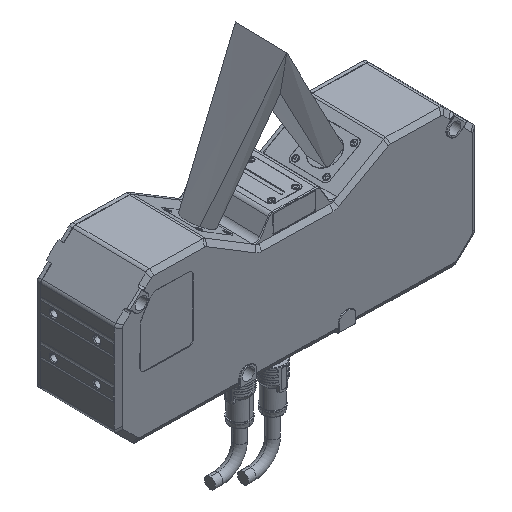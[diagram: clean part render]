
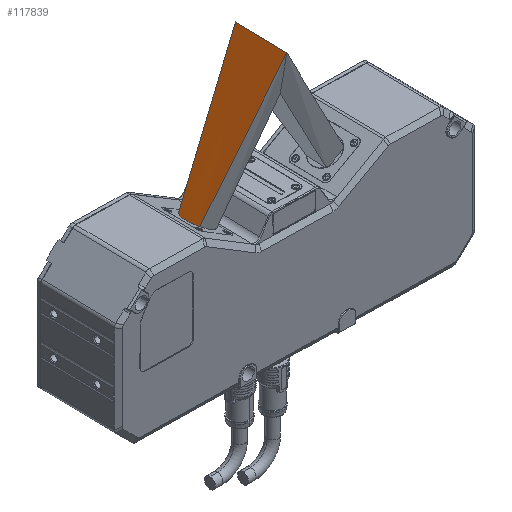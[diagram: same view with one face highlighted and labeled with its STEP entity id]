
A CAD part, isometric view. The second image highlights one B-rep face of the part: STEP entity #117839.
In plain terms, the highlighted free-form (B-spline) face has degree [3, 3] with [6, 4] control points.
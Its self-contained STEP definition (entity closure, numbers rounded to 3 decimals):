
#117694=DIRECTION('',(0.019,1.,0.));
#117695=VECTOR('',#117694,35.5);
#117696=CARTESIAN_POINT('',(120.977,-21.039,-1.51));
#117697=LINE('',#117696,#117695);
#117698=DIRECTION('',(-0.498,-0.1,
-0.861));
#117699=VECTOR('',#117698,97.936);
#117700=CARTESIAN_POINT('',(121.644,14.455,-1.51));
#117701=LINE('',#117700,#117699);
#117702=DIRECTION('',(0.,-1.,-0.011));
#117703=VECTOR('',#117702,14.397);
#117704=CARTESIAN_POINT('',(72.828,4.671,
-85.847));
#117705=LINE('',#117704,#117703);
#117710=DIRECTION('',(-0.492,0.116,-0.863));
#117711=VECTOR('',#117710,97.911);
#117712=CARTESIAN_POINT('',(120.977,-21.039,-1.51));
#117713=LINE('',#117712,#117711);
#117726=CARTESIAN_POINT('',(120.977,-21.039,-1.51));
#117727=CARTESIAN_POINT('',(72.828,-9.725,
-86.009));
#117728=VERTEX_POINT('',#117726);
#117729=VERTEX_POINT('',#117727);
#117730=CARTESIAN_POINT('',(121.644,14.455,-1.51));
#117731=CARTESIAN_POINT('',(72.828,4.671,
-85.847));
#117732=VERTEX_POINT('',#117730);
#117733=VERTEX_POINT('',#117731);
#117805=CARTESIAN_POINT('',(121.927,-21.983,
0.18));
#117806=CARTESIAN_POINT('',(105.24,-17.915,
-29.114));
#117807=CARTESIAN_POINT('',(88.553,-13.847,
-58.408));
#117808=CARTESIAN_POINT('',(71.865,-9.778,
-87.703));
#117809=CARTESIAN_POINT('',(121.931,-21.744,
0.18));
#117810=CARTESIAN_POINT('',(105.243,-17.724,
-29.114));
#117811=CARTESIAN_POINT('',(88.554,-13.705,
-58.408));
#117812=CARTESIAN_POINT('',(71.865,-9.685,
-87.702));
#117813=CARTESIAN_POINT('',(122.162,-9.532,
0.179));
#117814=CARTESIAN_POINT('',(105.395,-8.,
-29.096));
#117815=CARTESIAN_POINT('',(88.628,-6.467,
-58.371));
#117816=CARTESIAN_POINT('',(71.861,-4.934,
-87.645));
#117817=CARTESIAN_POINT('',(122.398,2.918,
0.178));
#117818=CARTESIAN_POINT('',(105.551,1.916,
-29.077));
#117819=CARTESIAN_POINT('',(88.703,0.913,
-58.333));
#117820=CARTESIAN_POINT('',(71.856,-0.09,
-87.588));
#117821=CARTESIAN_POINT('',(122.629,15.13,
0.177));
#117822=CARTESIAN_POINT('',(105.703,11.64,
-29.059));
#117823=CARTESIAN_POINT('',(88.777,8.151,
-58.295));
#117824=CARTESIAN_POINT('',(71.852,4.662,
-87.532));
#117825=CARTESIAN_POINT('',(122.634,15.369,
0.177));
#117826=CARTESIAN_POINT('',(105.706,11.831,
-29.059));
#117827=CARTESIAN_POINT('',(88.779,8.293,
-58.295));
#117828=CARTESIAN_POINT('',(71.852,4.755,
-87.53));
#117829=B_SPLINE_SURFACE_WITH_KNOTS('',3,3,((#117805,#117806,#117807,#117808),(
#117809,#117810,#117811,#117812),(#117813,#117814,#117815,#117816),(#117817,
#117818,#117819,#117820),(#117821,#117822,#117823,#117824),(#117825,#117826,
#117827,#117828)),.UNSPECIFIED.,.F.,.F.,.F.,(4,1,1,4),(4,4),(-0.02,0.,1.,
1.02),(-0.02,1.02),.UNSPECIFIED.);
#117831=ORIENTED_EDGE('',*,*,#117830,.F.);
#117833=ORIENTED_EDGE('',*,*,#117832,.T.);
#117834=ORIENTED_EDGE('',*,*,#117795,.T.);
#117836=ORIENTED_EDGE('',*,*,#117835,.T.);
#117837=EDGE_LOOP('',(#117831,#117833,#117834,#117836));
#117838=FACE_OUTER_BOUND('',#117837,.F.);
#117795=EDGE_CURVE('',#117732,#117733,#117701,.T.);
#117830=EDGE_CURVE('',#117728,#117729,#117713,.T.);
#117832=EDGE_CURVE('',#117728,#117732,#117697,.T.);
#117835=EDGE_CURVE('',#117733,#117729,#117705,.T.);
#117839=ADVANCED_FACE('',(#117838),#117829,.F.);
